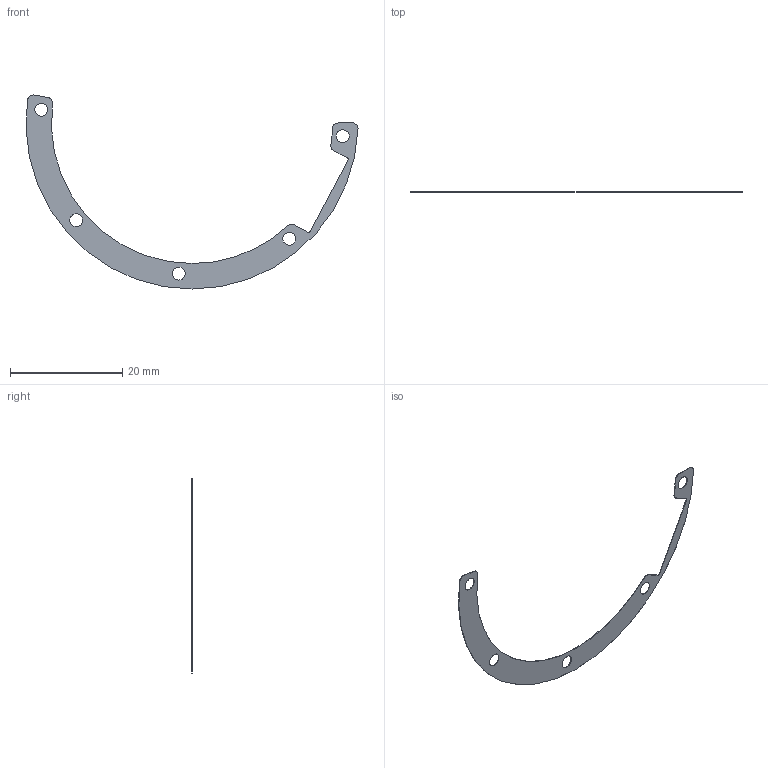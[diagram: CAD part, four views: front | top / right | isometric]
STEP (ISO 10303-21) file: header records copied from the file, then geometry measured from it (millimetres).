
FILE_DESCRIPTION (( 'STEP AP214' ), '1' );
FILE_NAME ('MN02235D02_01.STEP', '2023-12-18T13:16:20', ( '' ), ( '' ), 'SwSTEP 2.0', 'SolidWorks 2022', '' );
FILE_SCHEMA (( 'AUTOMOTIVE_DESIGN' ));
Length unit declared in the file: millimetre
Products named in the file (1): MN02235D02_01
Bounding box: 59.27 x 0.1 x 34.64 mm (x, y, z)
Volume: 34.7 mm3; surface area: 716.3 mm2
Topology: 1 solids, 1 shells, 31 faces, 87 edges, 58 vertices
Faces by surface type: cylinder 24, plane 7
Entity records: 1083 total; most frequent: DIRECTION 199, CARTESIAN_POINT 177, ORIENTED_EDGE 174, EDGE_CURVE 87, AXIS2_PLACEMENT_3D 80, VERTEX_POINT 58, CIRCLE 48, EDGE_LOOP 41
